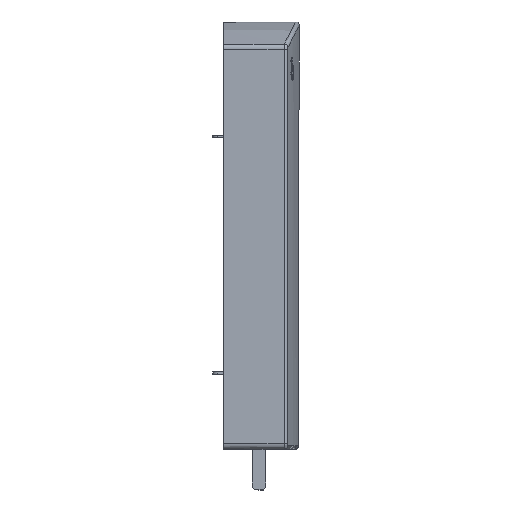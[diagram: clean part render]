
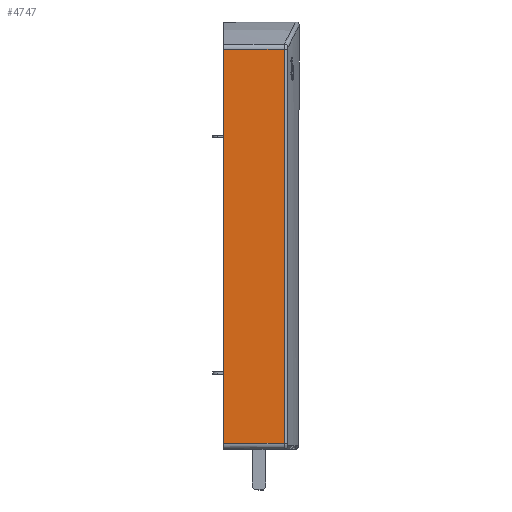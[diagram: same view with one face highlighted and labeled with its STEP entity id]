
A CAD part, top view. The second image highlights one B-rep face of the part: STEP entity #4747.
In plain terms, the highlighted planar face has unit normal (0, 0, 1).
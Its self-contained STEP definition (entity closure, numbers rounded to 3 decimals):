
#1369 = LINE ( 'NONE', #1379, #7002 ) ;
#1370 = LINE ( 'NONE', #1385, #7006 ) ;
#1379 = CARTESIAN_POINT ( 'NONE',  ( 41.001, -6.062, 22.754 ) ) ;
#1380 = DIRECTION ( 'NONE',  ( -1., 0., 0. ) ) ;
#1381 = LINE ( 'NONE', #1383, #7004 ) ;
#1383 = CARTESIAN_POINT ( 'NONE',  ( 32.709, 207.096, 22.754 ) ) ;
#1384 = DIRECTION ( 'NONE',  ( 0., 1., 0. ) ) ;
#1385 = CARTESIAN_POINT ( 'NONE',  ( 41.001, 207.096, 22.754 ) ) ;
#1386 = DIRECTION ( 'NONE',  ( -1., 0., 0. ) ) ;
#2483 = EDGE_CURVE ( 'NONE', #11579, #11580, #13789, .T. ) ;
#2819 = EDGE_LOOP ( 'NONE', ( #7260, #7261, #7262, #7263 ) ) ;
#2977 = EDGE_CURVE ( 'NONE', #5072, #11579, #1369, .T. ) ;
#2978 = EDGE_CURVE ( 'NONE', #5072, #5054, #1381, .T. ) ;
#2979 = EDGE_CURVE ( 'NONE', #5054, #11580, #1370, .T. ) ;
#4747 = ADVANCED_FACE ( 'NONE', ( #10647 ), #10655, .T. ) ;
#5054 = VERTEX_POINT ( 'NONE', #9798 ) ;
#5072 = VERTEX_POINT ( 'NONE', #9816 ) ;
#6231 = AXIS2_PLACEMENT_3D ( 'NONE', #10646, #10658, #10659 ) ;
#6928 = VECTOR ( 'NONE', #13791, 1000. ) ;
#7002 = VECTOR ( 'NONE', #1380, 1000. ) ;
#7004 = VECTOR ( 'NONE', #1384, 1000. ) ;
#7006 = VECTOR ( 'NONE', #1386, 1000. ) ;
#7260 = ORIENTED_EDGE ( 'NONE', *, *, #2977, .F. ) ;
#7261 = ORIENTED_EDGE ( 'NONE', *, *, #2978, .T. ) ;
#7262 = ORIENTED_EDGE ( 'NONE', *, *, #2979, .T. ) ;
#7263 = ORIENTED_EDGE ( 'NONE', *, *, #2483, .F. ) ;
#8962 = CARTESIAN_POINT ( 'NONE',  ( 0., -6.062, 22.754 ) ) ;
#8964 = CARTESIAN_POINT ( 'NONE',  ( 0., 207.096, 22.754 ) ) ;
#9798 = CARTESIAN_POINT ( 'NONE',  ( 32.709, 207.096, 22.754 ) ) ;
#9816 = CARTESIAN_POINT ( 'NONE',  ( 32.709, -6.062, 22.754 ) ) ;
#10646 = CARTESIAN_POINT ( 'NONE',  ( 41.001, 207.096, 22.754 ) ) ;
#10647 = FACE_OUTER_BOUND ( 'NONE', #2819, .T. ) ;
#10655 = PLANE ( 'NONE',  #6231 ) ;
#10658 = DIRECTION ( 'NONE',  ( 0., 0., 1. ) ) ;
#10659 = DIRECTION ( 'NONE',  ( 1., 0., 0. ) ) ;
#11579 = VERTEX_POINT ( 'NONE', #8962 ) ;
#11580 = VERTEX_POINT ( 'NONE', #8964 ) ;
#13789 = LINE ( 'NONE', #13790, #6928 ) ;
#13790 = CARTESIAN_POINT ( 'NONE',  ( 0., 207.096, 22.754 ) ) ;
#13791 = DIRECTION ( 'NONE',  ( 0., 1., 0. ) ) ;
